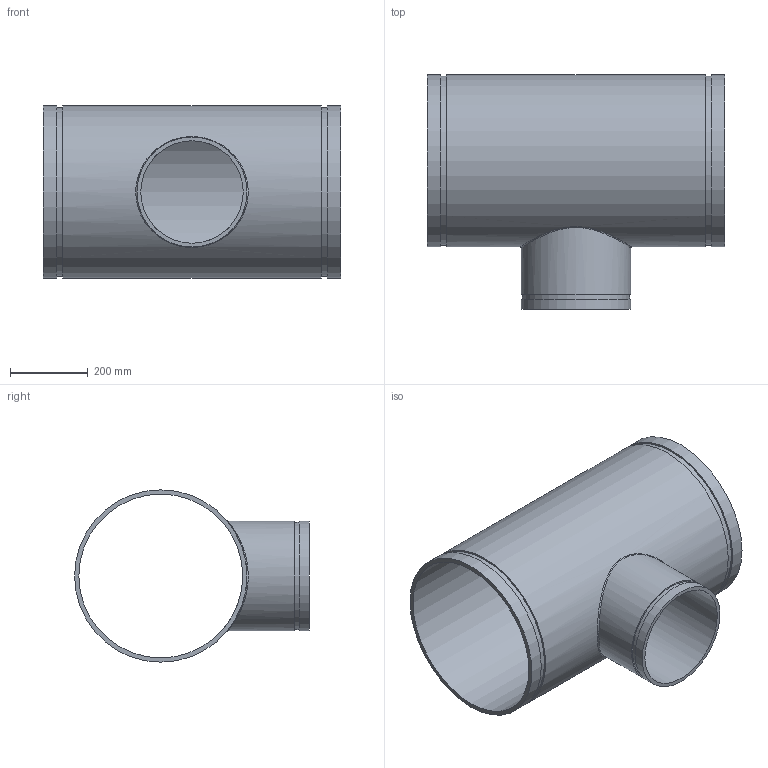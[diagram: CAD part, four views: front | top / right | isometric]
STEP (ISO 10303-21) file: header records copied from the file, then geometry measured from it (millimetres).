
FILE_DESCRIPTION(/* description */ ('VIC REDUCING TEE No 25-C','CAx-IF Rec.Pracs.---Representation and Presentation of Product Manufacturing Information (PMI)---4.0---2014-10-13'),/* implementation_level */ '2;1');
FILE_NAME(/* name */ 'C:\Users\Vjadhav\AppData\Roaming\Autodesk\ApplicationPlugins\Back Up\Victaulic_AWWA_Tee Reducing_No 25-C (DRG)\Victaulic_AWWA_Tee Reducing_No 25-C (DRG)_16.0x10.0 (400x250).stp',/* time_stamp */ '2020-08-18T18:18:18+06:00',/* author */ ('CORINNE GRAY'),/* organization */ ('Victaulic'),/* preprocessor_version */ 'ST-DEVELOPER v17.2',/* originating_system */ 'Autodesk Inventor 2019',/* authorisation */ '');
FILE_SCHEMA (('AP242_MANAGED_MODEL_BASED_3D_ENGINEERING_MIM_LF { 1 0 10303 442 1 1 4 }'));
Length unit declared in the file: inch
Products named in the file (1): 25C-16.0x10.0
Bounding box: 762 x 601.98 x 441.96 mm (x, y, z)
Volume: 11929742.7 mm3; surface area: 2329147.8 mm2
Topology: 1 solids, 1 shells, 20 faces, 44 edges, 33 vertices
Faces by surface type: cylinder 10, plane 9, bspline 1
Full cylindrical faces by diameter (mm): 262.636 x1, 274.65 x1, 281.94 x2, 420.116 x1, 433.4 x2, 441.96 x3
Entity records: 1067 total; most frequent: CARTESIAN_POINT 443, DIRECTION 135, ORIENTED_EDGE 90, AXIS2_PLACEMENT_3D 62, EDGE_CURVE 45, VERTEX_POINT 34, EDGE_LOOP 31, CIRCLE 29
